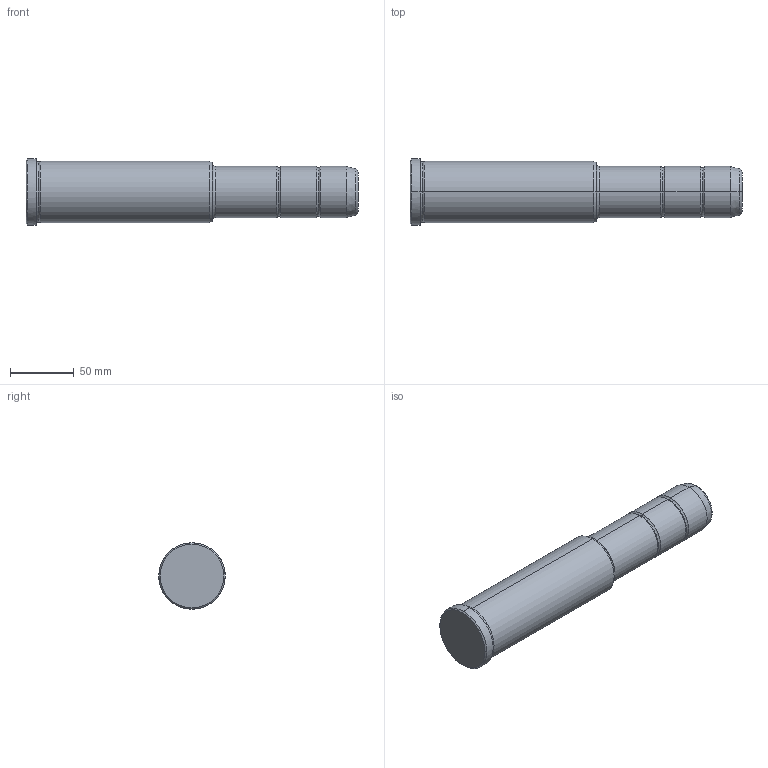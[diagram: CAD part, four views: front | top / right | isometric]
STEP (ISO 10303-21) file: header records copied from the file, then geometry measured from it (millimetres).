
FILE_DESCRIPTION(('CATIA V5 STEP Exchange'),'2;1');
FILE_NAME('C:\Users\Utente\Desktop\IO LAVORO\3D X SITO CF\X SITO\PLASTICA\351\351-40X146X260.stp','2021-10-28T18:44:24+00:00',('none'),('none'),'CATIA Version 5 Release 20 GA (IN-10)','CATIA V5 STEP AP203','none');
FILE_SCHEMA(('CONFIG_CONTROL_DESIGN'));
Length unit declared in the file: millimetre
Products named in the file (1): 351-40X146X260
Bounding box: 260 x 52 x 52 mm (x, y, z)
Volume: 407781.4 mm3; surface area: 40137.8 mm2
Topology: 1 solids, 1 shells, 36 faces, 102 edges, 70 vertices
Faces by surface type: torus 16, cylinder 10, cone 6, plane 4
Entity records: 1292 total; most frequent: CARTESIAN_POINT 321, ORIENTED_EDGE 204, DIRECTION 166, AXIS2_PLACEMENT_3D 115, EDGE_CURVE 102, CIRCLE 78, VERTEX_POINT 70, EDGE_LOOP 38
